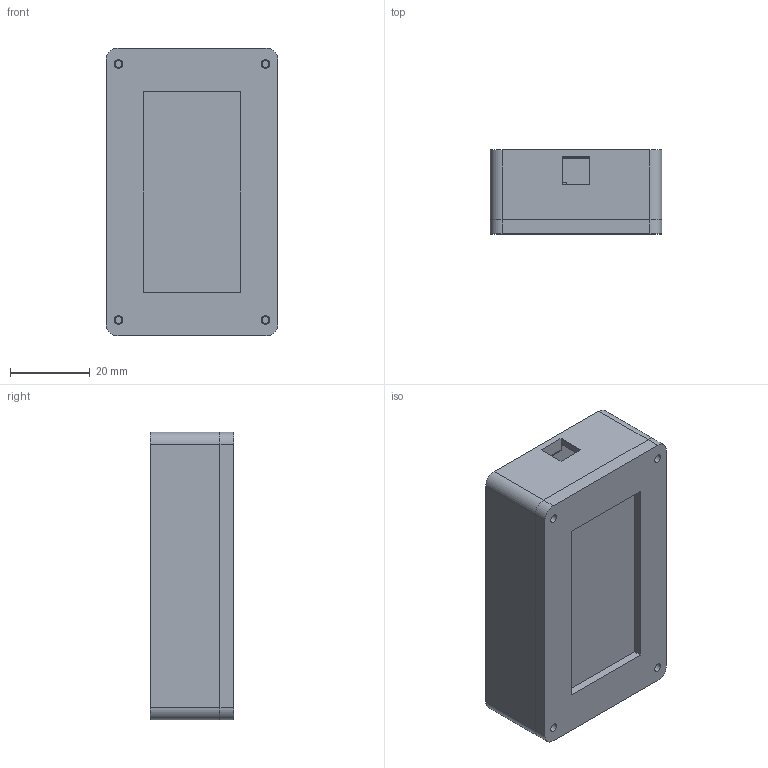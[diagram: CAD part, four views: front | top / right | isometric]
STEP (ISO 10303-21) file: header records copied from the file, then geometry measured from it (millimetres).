
FILE_DESCRIPTION(('Open CASCADE Model'),'2;1');
FILE_NAME('Open CASCADE Shape Model','2026-10-19T03:30:15',('Author'),( 'Open CASCADE'),'Open CASCADE STEP processor 7.9','Open CASCADE 7.9' ,'Unknown');
FILE_SCHEMA(('AUTOMOTIVE_DESIGN { 1 0 10303 214 1 1 1 1 }'));
Length unit declared in the file: millimetre
Products named in the file (9): NFC_ePaper_RevB_nominal_mechanical_assembly; Front_bezel; Rear_shell; Display_envelope; Expansion_board_vendor_STEP_at_native_coordinates; Removable_screen_clip_1; Removable_screen_clip_2; Removable_screen_clip_3; Removable_screen_clip_4
Assembly tree (8 placements, depth 2):
  NFC_ePaper_RevB_nominal_mechanical_assembly
    Front_bezel
    Rear_shell
    Display_envelope
    Expansion_board_vendor_STEP_at_native_coordinates
    Removable_screen_clip_1
    Removable_screen_clip_2
    Removable_screen_clip_3
    Removable_screen_clip_4
Bounding box: 43 x 21 x 72 mm (x, y, z)
Volume: 22959.1 mm3; surface area: 28356.9 mm2
Topology: 83 solids, 83 shells, 3160 faces, 8611 edges, 5618 vertices
Faces by surface type: plane 2171, cylinder 987, torus 2
Full cylindrical faces by diameter (mm): 0.5 x2, 1.2 x14, 1.56 x4, 1.64 x8, 1.68 x3, 1.709 x28, 1.9 x4, 2.1 x4, 2.5 x4, 4.6 x3
Entity records: 215611 total; most frequent: CARTESIAN_POINT 42376, DIRECTION 32725, LINE 21618, VECTOR 21618, ORIENTED_EDGE 17222, PCURVE 17222, DEFINITIONAL_REPRESENTATION 17222, EDGE_CURVE 8611
